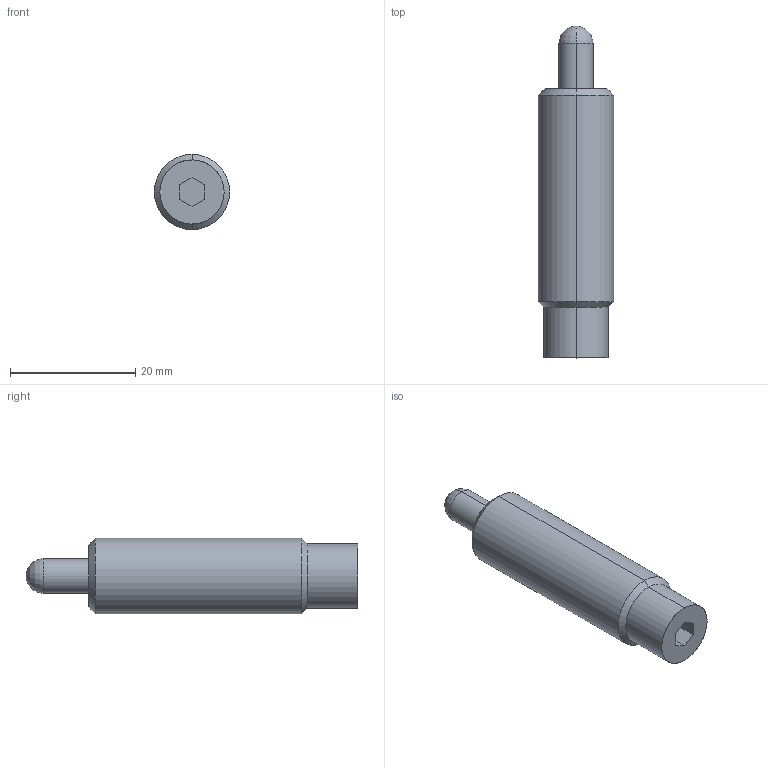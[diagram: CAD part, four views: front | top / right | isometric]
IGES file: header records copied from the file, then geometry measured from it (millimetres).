
Start section: START RECORD GO HERE.
Global section: file name: M314-04-002.igs; native system: DASSAULT SYSTEMES CATIA V5 R20 - www.3ds.com; preprocessor: CATIA Version 5 Release 20 ; author: Utente; organization: NB04-ASUS; date: 20200418.091315; units: millimetre
Bounding box: 12 x 53 x 12 mm (x, y, z)
Surface area: 1961.5 mm2 (no closed solid volume)
Topology: 0 solids, 0 shells, 21 faces, 90 edges, 88 vertices
Faces by surface type: revolution 12, extrusion 9
